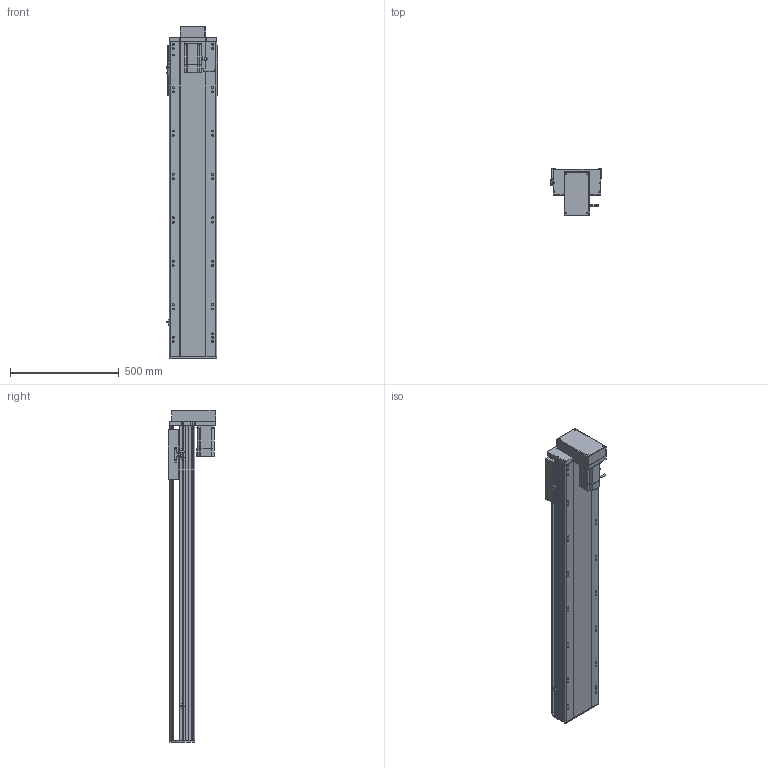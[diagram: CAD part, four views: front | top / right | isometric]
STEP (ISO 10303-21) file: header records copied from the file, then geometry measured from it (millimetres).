
FILE_DESCRIPTION (( 'STEP AP214' ), '1' );
FILE_NAME ('RTH22-XX-1150-M-M75-C4.STEP', '2025-10-24T11:13:22', ( 'Microsoft' ), ( 'Microsoft' ), 'SwSTEP 2.0', 'SolidWorks 2018', '' );
FILE_SCHEMA (( 'AUTOMOTIVE_DESIGN' ));
Length unit declared in the file: millimetre
Products named in the file (10): RTH22-XX-1150-M-M75-C4; N_RTH22-GY-013外置感应片^RTH22-XX-XX-M-M75-C4; N_RTH22-M-007奻裔^RTH22-XX-XX-M-M75-C4; N_RTH22-M-008-P75萇儂啣^RTH22-XX-XX-M-M75-C4; N_RTH22-M-018裔赽^RTH22-XX-XX-M-M75-C4; N_RTH22-L-011菁釱^RTH22-XX-XX-M-M75-C4; N_OMRON EE-SX672 传感器^RTH22-XX-XX-M-M75-C4; N_RTH22-GY-001耜裔^RTH22-XX-XX-M-M75-C4; N_RTH22-L-004-SFS25賑釱^RTH22-XX-XX-M-M75-C4; N_750W萇儂^RTH22-XX-XX-M-M75-C4
Assembly tree (11 placements, depth 2):
  RTH22-XX-1150-M-M75-C4
    N_RTH22-L-011菁釱^RTH22-XX-XX-M-M75-C4
    N_RTH22-GY-001耜裔^RTH22-XX-XX-M-M75-C4
    N_750W萇儂^RTH22-XX-XX-M-M75-C4
    N_RTH22-M-008-P75萇儂啣^RTH22-XX-XX-M-M75-C4
    N_RTH22-M-007奻裔^RTH22-XX-XX-M-M75-C4
    N_RTH22-M-018裔赽^RTH22-XX-XX-M-M75-C4
    N_OMRON EE-SX672 传感器^RTH22-XX-XX-M-M75-C4  x3
    N_RTH22-GY-013外置感应片^RTH22-XX-XX-M-M75-C4
    N_RTH22-L-004-SFS25賑釱^RTH22-XX-XX-M-M75-C4
Bounding box: 238.5 x 218.5 x 1529.7 mm (x, y, z)
Volume: 20590163.7 mm3; surface area: 2239451.7 mm2
Topology: 11 solids, 11 shells, 1641 faces, 4480 edges, 2885 vertices
Faces by surface type: plane 809, cylinder 487, bspline 279, cone 66
Entity records: 41657 total; most frequent: CARTESIAN_POINT 12512, ORIENTED_EDGE 5920, DIRECTION 5614, EDGE_CURVE 2960, VERTEX_POINT 1921, AXIS2_PLACEMENT_3D 1895, LINE 1824, VECTOR 1824
